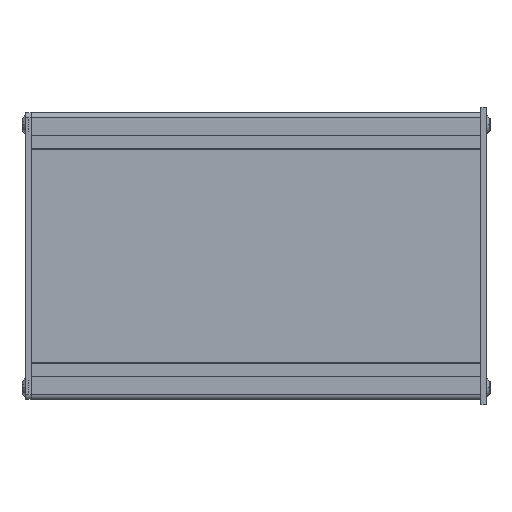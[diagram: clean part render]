
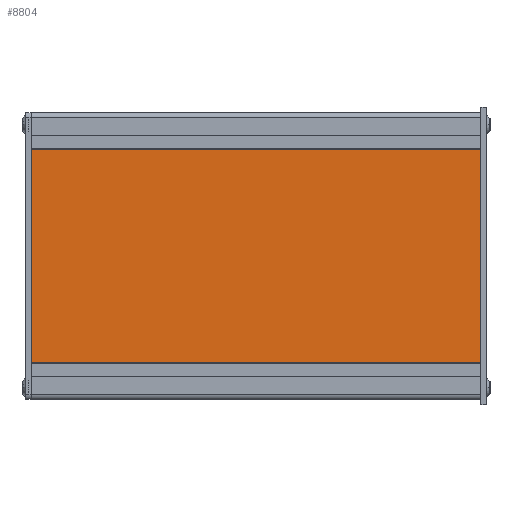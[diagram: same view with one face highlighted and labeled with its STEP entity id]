
A CAD part, left-side view. The second image highlights one B-rep face of the part: STEP entity #8804.
In plain terms, the highlighted planar face has unit normal (-1, 0, 0).
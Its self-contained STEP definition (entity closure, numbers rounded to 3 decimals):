
#972=PLANE('',#9674);
#1268=FACE_OUTER_BOUND('',#1814,.T.);
#1814=EDGE_LOOP('',(#6737,#6738,#6739,#6740));
#2614=LINE('',#13918,#3304);
#2624=LINE('',#13939,#3314);
#2625=LINE('',#13941,#3315);
#2626=LINE('',#13942,#3316);
#3304=VECTOR('',#11148,10.);
#3314=VECTOR('',#11166,10.);
#3315=VECTOR('',#11167,10.);
#3316=VECTOR('',#11168,10.);
#4330=VERTEX_POINT('',#13911);
#4333=VERTEX_POINT('',#13916);
#4340=VERTEX_POINT('',#13938);
#4341=VERTEX_POINT('',#13940);
#5197=EDGE_CURVE('',#4330,#4333,#2614,.T.);
#5207=EDGE_CURVE('',#4330,#4340,#2624,.T.);
#5208=EDGE_CURVE('',#4341,#4333,#2625,.T.);
#5209=EDGE_CURVE('',#4340,#4341,#2626,.T.);
#6737=ORIENTED_EDGE('',*,*,#5207,.F.);
#6738=ORIENTED_EDGE('',*,*,#5197,.T.);
#6739=ORIENTED_EDGE('',*,*,#5208,.F.);
#6740=ORIENTED_EDGE('',*,*,#5209,.F.);
#8804=ADVANCED_FACE('',(#1268),#972,.T.);
#9674=AXIS2_PLACEMENT_3D('',#13937,#11164,#11165);
#11148=DIRECTION('',(0.,1.,0.));
#11164=DIRECTION('center_axis',(-1.,0.,0.));
#11165=DIRECTION('ref_axis',(0.,0.,1.));
#11166=DIRECTION('',(0.,0.,-1.));
#11167=DIRECTION('',(0.,0.,1.));
#11168=DIRECTION('',(0.,1.,0.));
#13911=CARTESIAN_POINT('',(239.,0.,3.55));
#13916=CARTESIAN_POINT('',(239.,200.,3.55));
#13918=CARTESIAN_POINT('',(239.,0.,3.55));
#13937=CARTESIAN_POINT('Origin',(239.,0.,-91.65));
#13938=CARTESIAN_POINT('',(239.,0.,-91.65));
#13939=CARTESIAN_POINT('',(239.,0.,-44.05));
#13940=CARTESIAN_POINT('',(239.,200.,-91.65));
#13941=CARTESIAN_POINT('',(239.,200.,-44.05));
#13942=CARTESIAN_POINT('',(239.,0.,-91.65));
